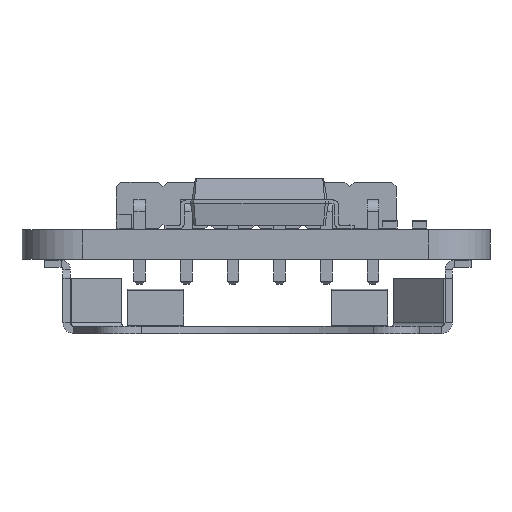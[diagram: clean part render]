
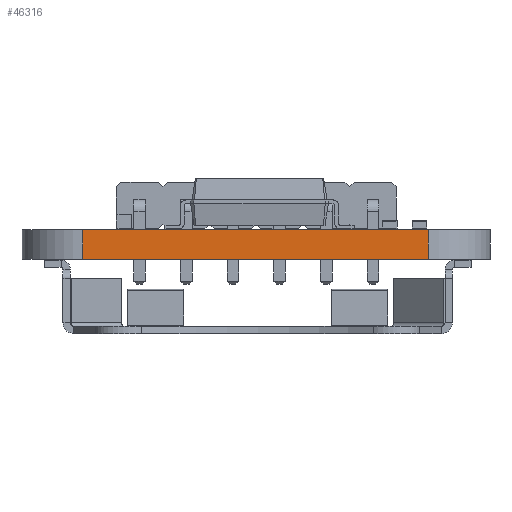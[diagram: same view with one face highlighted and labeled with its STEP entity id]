
A CAD part, front view. The second image highlights one B-rep face of the part: STEP entity #46316.
In plain terms, the highlighted planar face has unit normal (-0.001, -1, 0).
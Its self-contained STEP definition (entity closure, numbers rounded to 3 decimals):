
#45274 = PLANE('',#45275);
#45275 = AXIS2_PLACEMENT_3D('',#45276,#45277,#45278);
#45276 = CARTESIAN_POINT('',(149.902,-84.246,1.6));
#45277 = DIRECTION('',(0.,0.,1.));
#45278 = DIRECTION('',(1.,0.,0.));
#45328 = PLANE('',#45329);
#45329 = AXIS2_PLACEMENT_3D('',#45330,#45331,#45332);
#45330 = CARTESIAN_POINT('',(149.902,-84.246,0.));
#45331 = DIRECTION('',(0.,0.,1.));
#45332 = DIRECTION('',(1.,0.,0.));
#45525 = VERTEX_POINT('',#45526);
#45526 = CARTESIAN_POINT('',(140.462,-97.358,0.));
#45541 = CYLINDRICAL_SURFACE('',#45542,3.302);
#45542 = AXIS2_PLACEMENT_3D('',#45543,#45544,#45545);
#45543 = CARTESIAN_POINT('',(140.462,-94.056,0.));
#45544 = DIRECTION('',(0.,0.,-1.));
#45545 = DIRECTION('',(1.,0.,0.));
#45553 = EDGE_CURVE('',#45525,#45554,#45556,.T.);
#45554 = VERTEX_POINT('',#45555);
#45555 = CARTESIAN_POINT('',(159.283,-97.384,0.));
#45556 = SURFACE_CURVE('',#45557,(#45561,#45568),.PCURVE_S1.);
#45557 = LINE('',#45558,#45559);
#45558 = CARTESIAN_POINT('',(140.462,-97.358,0.));
#45559 = VECTOR('',#45560,1.);
#45560 = DIRECTION('',(1.,-0.001,0.));
#45561 = PCURVE('',#45328,#45562);
#45562 = DEFINITIONAL_REPRESENTATION('',(#45563),#45567);
#45563 = LINE('',#45564,#45565);
#45564 = CARTESIAN_POINT('',(-9.44,-13.112));
#45565 = VECTOR('',#45566,1.);
#45566 = DIRECTION('',(1.,-0.001));
#45567 = ( GEOMETRIC_REPRESENTATION_CONTEXT(2) 
PARAMETRIC_REPRESENTATION_CONTEXT() REPRESENTATION_CONTEXT('2D SPACE',''
  ) );
#45568 = PCURVE('',#45569,#45574);
#45569 = PLANE('',#45570);
#45570 = AXIS2_PLACEMENT_3D('',#45571,#45572,#45573);
#45571 = CARTESIAN_POINT('',(140.462,-97.358,0.));
#45572 = DIRECTION('',(0.001,1.,0.));
#45573 = DIRECTION('',(1.,-0.001,0.));
#45574 = DEFINITIONAL_REPRESENTATION('',(#45575),#45579);
#45575 = LINE('',#45576,#45577);
#45576 = CARTESIAN_POINT('',(0.,0.));
#45577 = VECTOR('',#45578,1.);
#45578 = DIRECTION('',(1.,0.));
#45579 = ( GEOMETRIC_REPRESENTATION_CONTEXT(2) 
PARAMETRIC_REPRESENTATION_CONTEXT() REPRESENTATION_CONTEXT('2D SPACE',''
  ) );
#45598 = CYLINDRICAL_SURFACE('',#45599,3.302);
#45599 = AXIS2_PLACEMENT_3D('',#45600,#45601,#45602);
#45600 = CARTESIAN_POINT('',(159.334,-94.082,0.));
#45601 = DIRECTION('',(0.,0.,-1.));
#45602 = DIRECTION('',(1.,0.,0.));
#45909 = VERTEX_POINT('',#45910);
#45910 = CARTESIAN_POINT('',(140.462,-97.358,1.6));
#45932 = EDGE_CURVE('',#45909,#45933,#45935,.T.);
#45933 = VERTEX_POINT('',#45934);
#45934 = CARTESIAN_POINT('',(159.283,-97.384,1.6));
#45935 = SURFACE_CURVE('',#45936,(#45940,#45947),.PCURVE_S1.);
#45936 = LINE('',#45937,#45938);
#45937 = CARTESIAN_POINT('',(140.462,-97.358,1.6));
#45938 = VECTOR('',#45939,1.);
#45939 = DIRECTION('',(1.,-0.001,0.));
#45940 = PCURVE('',#45274,#45941);
#45941 = DEFINITIONAL_REPRESENTATION('',(#45942),#45946);
#45942 = LINE('',#45943,#45944);
#45943 = CARTESIAN_POINT('',(-9.44,-13.112));
#45944 = VECTOR('',#45945,1.);
#45945 = DIRECTION('',(1.,-0.001));
#45946 = ( GEOMETRIC_REPRESENTATION_CONTEXT(2) 
PARAMETRIC_REPRESENTATION_CONTEXT() REPRESENTATION_CONTEXT('2D SPACE',''
  ) );
#45947 = PCURVE('',#45569,#45948);
#45948 = DEFINITIONAL_REPRESENTATION('',(#45949),#45953);
#45949 = LINE('',#45950,#45951);
#45950 = CARTESIAN_POINT('',(0.,-1.6));
#45951 = VECTOR('',#45952,1.);
#45952 = DIRECTION('',(1.,0.));
#45953 = ( GEOMETRIC_REPRESENTATION_CONTEXT(2) 
PARAMETRIC_REPRESENTATION_CONTEXT() REPRESENTATION_CONTEXT('2D SPACE',''
  ) );
#46266 = EDGE_CURVE('',#45554,#45933,#46267,.T.);
#46267 = SURFACE_CURVE('',#46268,(#46272,#46279),.PCURVE_S1.);
#46268 = LINE('',#46269,#46270);
#46269 = CARTESIAN_POINT('',(159.283,-97.384,0.));
#46270 = VECTOR('',#46271,1.);
#46271 = DIRECTION('',(0.,0.,1.));
#46272 = PCURVE('',#45598,#46273);
#46273 = DEFINITIONAL_REPRESENTATION('',(#46274),#46278);
#46274 = LINE('',#46275,#46276);
#46275 = CARTESIAN_POINT('',(-4.697,0.));
#46276 = VECTOR('',#46277,1.);
#46277 = DIRECTION('',(0.,-1.));
#46278 = ( GEOMETRIC_REPRESENTATION_CONTEXT(2) 
PARAMETRIC_REPRESENTATION_CONTEXT() REPRESENTATION_CONTEXT('2D SPACE',''
  ) );
#46279 = PCURVE('',#45569,#46280);
#46280 = DEFINITIONAL_REPRESENTATION('',(#46281),#46285);
#46281 = LINE('',#46282,#46283);
#46282 = CARTESIAN_POINT('',(18.821,0.));
#46283 = VECTOR('',#46284,1.);
#46284 = DIRECTION('',(0.,-1.));
#46285 = ( GEOMETRIC_REPRESENTATION_CONTEXT(2) 
PARAMETRIC_REPRESENTATION_CONTEXT() REPRESENTATION_CONTEXT('2D SPACE',''
  ) );
#46295 = EDGE_CURVE('',#45525,#45909,#46296,.T.);
#46296 = SURFACE_CURVE('',#46297,(#46301,#46308),.PCURVE_S1.);
#46297 = LINE('',#46298,#46299);
#46298 = CARTESIAN_POINT('',(140.462,-97.358,0.));
#46299 = VECTOR('',#46300,1.);
#46300 = DIRECTION('',(0.,0.,1.));
#46301 = PCURVE('',#45541,#46302);
#46302 = DEFINITIONAL_REPRESENTATION('',(#46303),#46307);
#46303 = LINE('',#46304,#46305);
#46304 = CARTESIAN_POINT('',(-4.712,0.));
#46305 = VECTOR('',#46306,1.);
#46306 = DIRECTION('',(0.,-1.));
#46307 = ( GEOMETRIC_REPRESENTATION_CONTEXT(2) 
PARAMETRIC_REPRESENTATION_CONTEXT() REPRESENTATION_CONTEXT('2D SPACE',''
  ) );
#46308 = PCURVE('',#45569,#46309);
#46309 = DEFINITIONAL_REPRESENTATION('',(#46310),#46314);
#46310 = LINE('',#46311,#46312);
#46311 = CARTESIAN_POINT('',(0.,0.));
#46312 = VECTOR('',#46313,1.);
#46313 = DIRECTION('',(0.,-1.));
#46314 = ( GEOMETRIC_REPRESENTATION_CONTEXT(2) 
PARAMETRIC_REPRESENTATION_CONTEXT() REPRESENTATION_CONTEXT('2D SPACE',''
  ) );
#46316 = ADVANCED_FACE('',(#46317),#45569,.F.);
#46317 = FACE_BOUND('',#46318,.F.);
#46318 = EDGE_LOOP('',(#46319,#46320,#46321,#46322));
#46319 = ORIENTED_EDGE('',*,*,#46295,.T.);
#46320 = ORIENTED_EDGE('',*,*,#45932,.T.);
#46321 = ORIENTED_EDGE('',*,*,#46266,.F.);
#46322 = ORIENTED_EDGE('',*,*,#45553,.F.);
